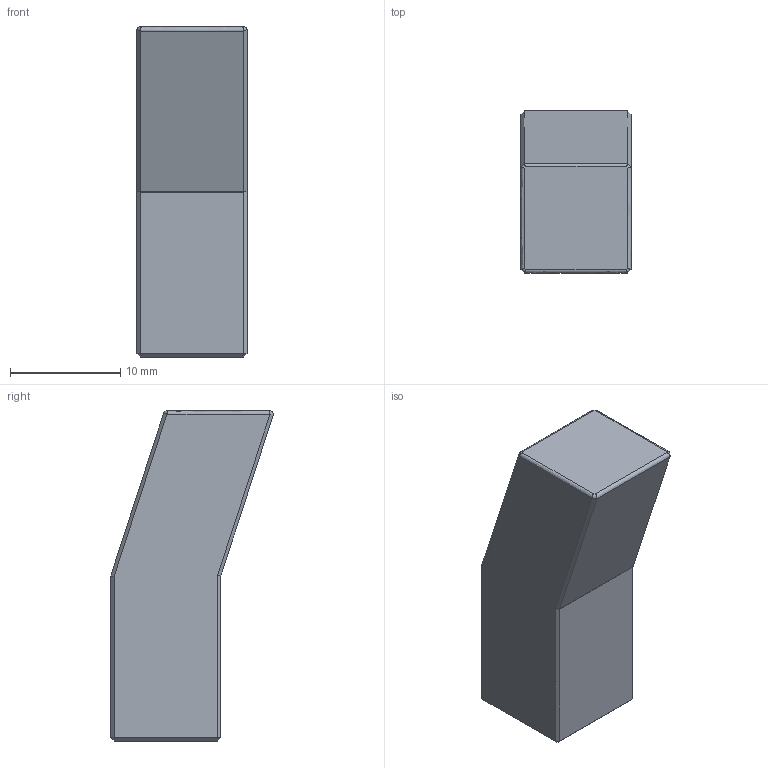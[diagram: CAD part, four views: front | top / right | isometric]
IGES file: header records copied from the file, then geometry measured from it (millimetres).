
Global section: file name: E:\UnigraphicsGraphicData\MISUMI_MOLD-PARTS\NX\3d_ance10_b10_l30_k18_00917_r00.igs; native system: NX V5.0; preprocessor: UGS NX IGES V5.0; author: MISUMI; date: 20101115.182444; units: millimetre
Bounding box: 10 x 14.76 x 30 mm (x, y, z)
Surface area: 1624.8 mm2 (no closed solid volume)
Topology: 0 solids, 0 shells, 37 faces, 207 edges, 206 vertices
Faces by surface type: bspline 37
